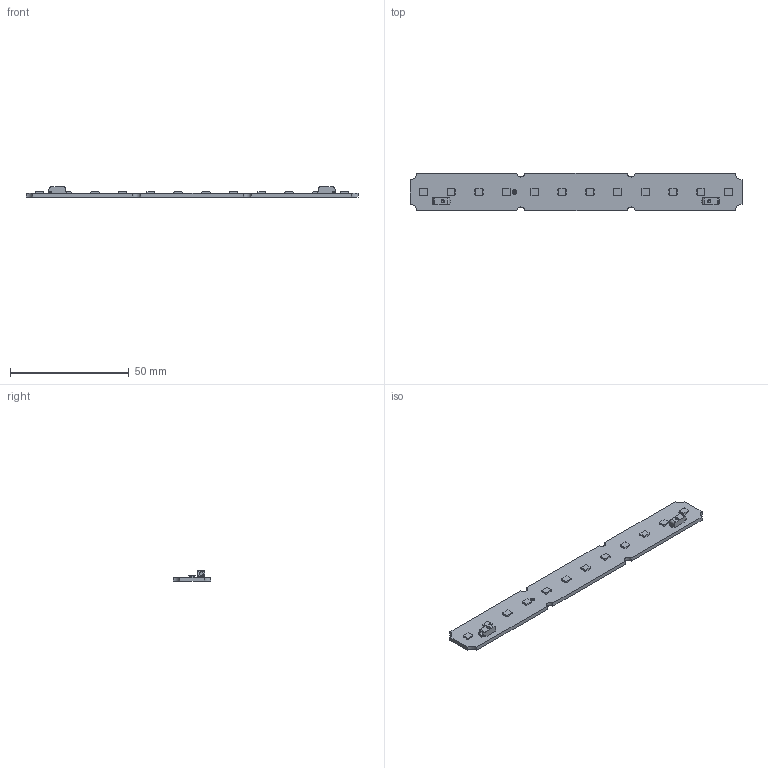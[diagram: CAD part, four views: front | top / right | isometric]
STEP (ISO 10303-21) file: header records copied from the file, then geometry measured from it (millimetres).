
FILE_DESCRIPTION((''),'2;1');
FILE_NAME('16208817_LLE-G5-16X140-650LM','2019-01-15T14:04:38',('bernhard.fink'),(''),'CREO PARAMETRIC BY PTC INC, 2017380','CREO PARAMETRIC BY PTC INC, 2017380','');
FILE_SCHEMA(('AUTOMOTIVE_DESIGN { 1 0 10303 214 1 1 1 1 }'));
Length unit declared in the file: millimetre
Products named in the file (1): 16208817_LLE-G5-16X140-650LM
Bounding box: 139.6 x 15.8 x 4.35 mm (x, y, z)
Volume: 3737.2 mm3; surface area: 5375.9 mm2
Topology: 13 solids, 13 shells, 513 faces, 1430 edges, 952 vertices
Faces by surface type: plane 409, cylinder 100, torus 4
Entity records: 24845 total; most frequent: CARTESIAN_POINT 3361, ORIENTED_EDGE 2860, DIRECTION 2436, PRESENTATION_STYLE_ASSIGNMENT 1956, STYLED_ITEM 1443, CURVE_STYLE 1430, EDGE_CURVE 1430, VECTOR 1214
